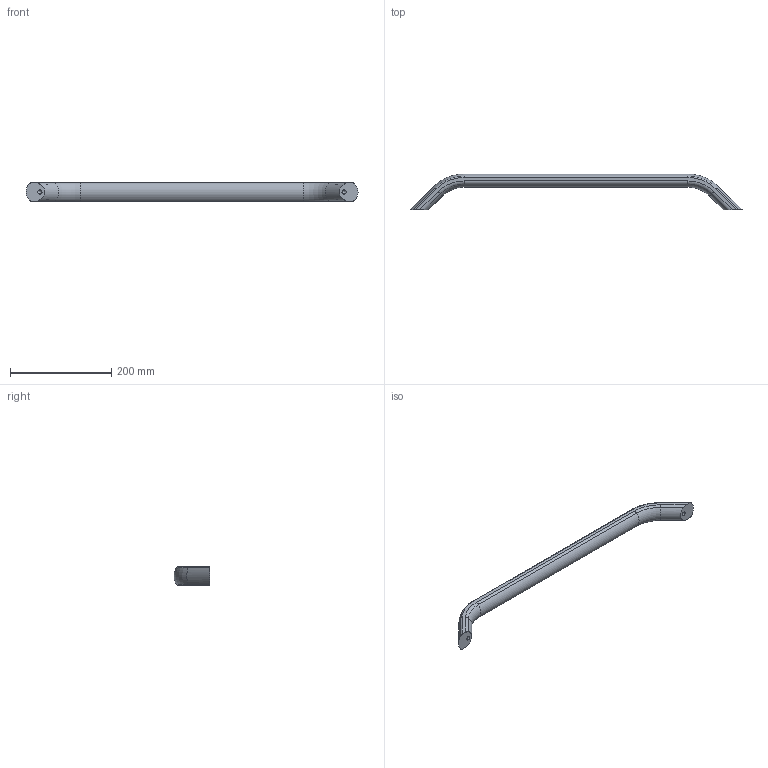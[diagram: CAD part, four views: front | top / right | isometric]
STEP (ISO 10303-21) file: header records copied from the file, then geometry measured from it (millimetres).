
FILE_DESCRIPTION( ( 'STEP AP203' ), '1' );
FILE_NAME( 'C:/Temp/Ganter_Step_05_03_2020/data/1_2/gn_428/gn_428_a/Cabinet U-handle GN 428-AL-36-600-A-SW.stp', '2020-03-05T10:11:31', ( 'License CC BY-ND 4.0' ), ( 'CADENAS' ), ' ', 'PARTsolutions', ' ' );
FILE_SCHEMA( ( 'CONFIG_CONTROL_DESIGN' ) );
Length unit declared in the file: millimetre
Products named in the file (1): _Cabinet U-handle GN 428-AL-36-600-A-SW
Bounding box: 654.73 x 70.91 x 36 mm (x, y, z)
Volume: 506955.2 mm3; surface area: 70387.4 mm2
Topology: 1 solids, 1 shells, 38 faces, 90 edges, 54 vertices
Faces by surface type: cylinder 20, torus 12, plane 4, cone 2
Full cylindrical faces by diameter (mm): 8.376 x2
Entity records: 1120 total; most frequent: DIRECTION 218, CARTESIAN_POINT 177, ORIENTED_EDGE 168, AXIS2_PLACEMENT_3D 95, EDGE_CURVE 84, VERTEX_POINT 54, CIRCLE 44, EDGE_LOOP 42
